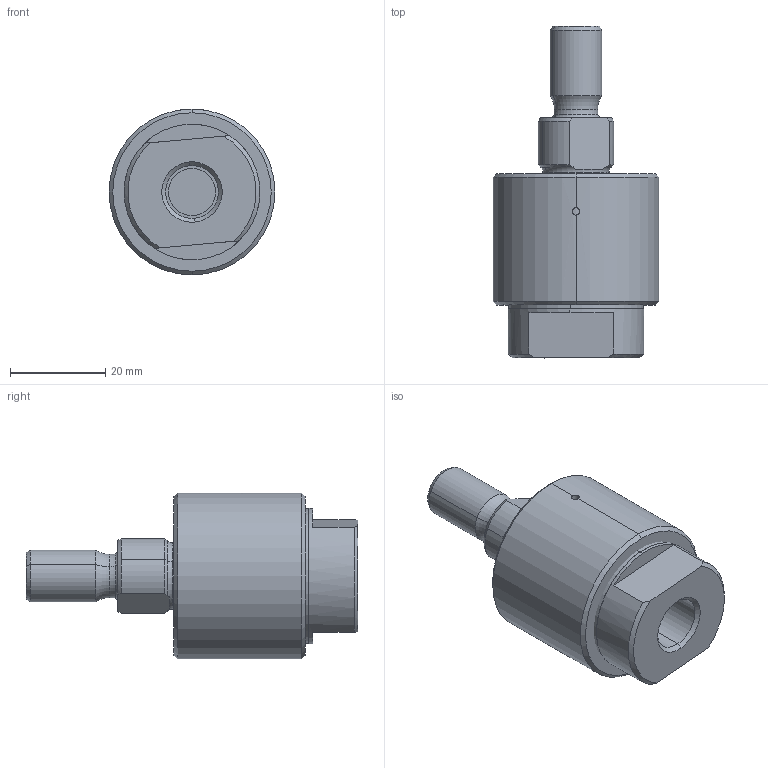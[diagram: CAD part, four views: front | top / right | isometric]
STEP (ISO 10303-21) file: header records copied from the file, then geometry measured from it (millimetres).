
FILE_DESCRIPTION (( 'STEP AP203' ), '1' );
FILE_NAME ('R020-01420.STEP', '2015-02-10T13:37:35', ( '' ), ( '' ), 'SwSTEP 2.0', 'SolidWorks 2014', '' );
FILE_SCHEMA (( 'CONFIG_CONTROL_DESIGN' ));
Length unit declared in the file: inch
Products named in the file (1): R020-01420
Bounding box: 34.92 x 69.85 x 34.92 mm (x, y, z)
Volume: 33121.1 mm3; surface area: 15347.9 mm2
Topology: 5 solids, 5 shells, 106 faces, 245 edges, 151 vertices
Faces by surface type: cylinder 35, cone 24, plane 23, torus 16, sphere 8
Entity records: 3188 total; most frequent: CARTESIAN_POINT 617, DIRECTION 583, ORIENTED_EDGE 486, AXIS2_PLACEMENT_3D 257, EDGE_CURVE 243, VERTEX_POINT 151, CIRCLE 150, EDGE_LOOP 118
